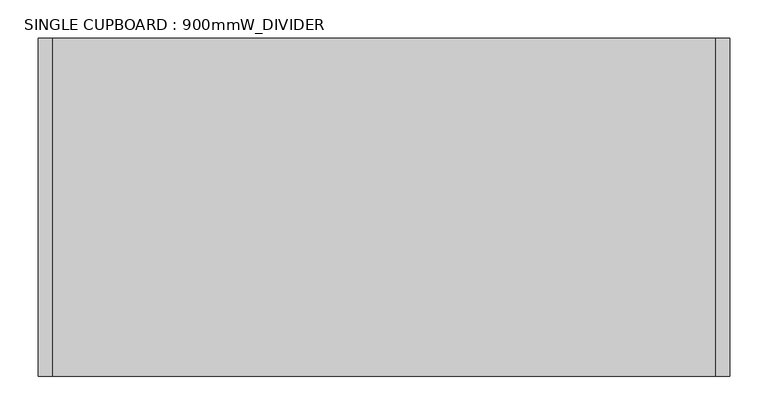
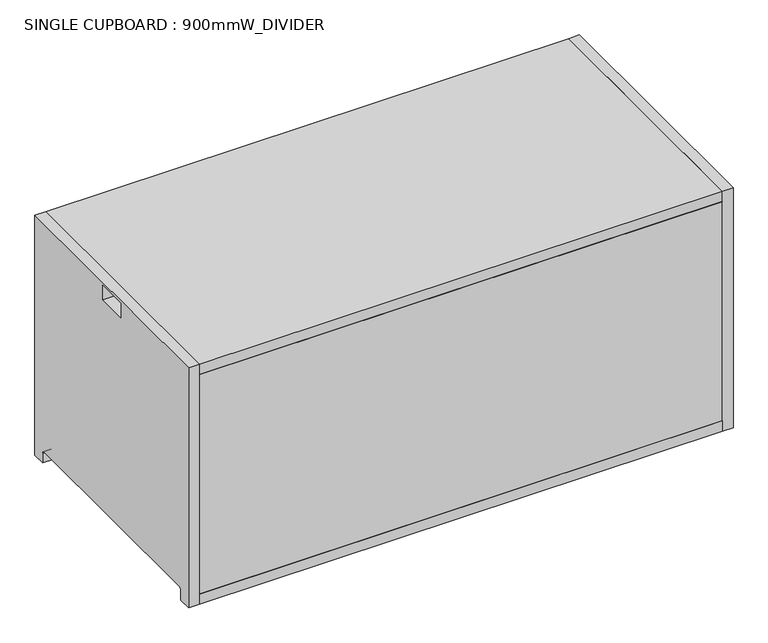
"""IFC4 building model written with IfcOpenShell, lengths in millimetres: furniture geometry, SINGLE CUPBOARD : 900mmW_DIVIDER."""

from ifc_helpers import new_model, si_unit, point, frame, frame_2d, origin, place, context, project, spatial, polyline, circle_curve, trimmed, segment, composite_curve, outline, extrude, source, transform, mapped, element, save
from ifc_brep_helpers import plane_surface, revolved_surface, advanced_brep


def single_cupboard_900mmw_divider_bc8416fa(model_context):
    return source(origin(), model_context, "Body", "SolidModel", [
        extrude(outline(composite_curve([segment(polyline([(220.0, 419.5), (220.0, 0.0), (198.0, 0.0), (198.0, 17.0)]), True, "CONTINUOUS"), segment(trimmed(circle_curve(frame_2d((194.0, 17.0)), 4.0), [point((198.0, 17.0))], [point((194.0, 21.0))], True, "CARTESIAN"), True, "CONTINUOUS"), segment(polyline([(194.0, 21.0), (-194.0, 21.0)]), True, "CONTINUOUS"), segment(trimmed(circle_curve(frame_2d((-194.0, 17.0)), 4.0), [point((-194.0, 21.0))], [point((-198.0, 17.0))], True, "CARTESIAN"), True, "CONTINUOUS"), segment(polyline([(-198.0, 17.0), (-198.0, 0.0), (-220.0, 0.0), (-220.0, 419.5), (220.0, 419.5)]), True, "CONTINUOUS")], self_intersect=False), holes=[polyline([(26.0, 414.5), (-26.0, 414.5), (-26.0, 389.5), (26.0, 389.5), (26.0, 414.5)])]), frame((-450.0, 0.0, 0.0), z_axis=(1.0, 0.0, 0.0), x_axis=(0.0, 1.0, 0.0)), (0.0, 0.0, 1.0), 18.0),
        advanced_brep(
        [(432.0, -220.0, 18.0), (432.0, 220.0, 18.0), (-432.0, 220.0, 18.0), (-432.0, 197.8729833, 18.0), (-426.1019215, 197.8729833, 18.0), (-426.1019215, -197.8729833, 18.0), (-432.0, -197.8729833, 18.0), (-432.0, -220.0, 18.0), (432.0, -220.0, 0.0), (-432.0, -220.0, 0.0), (-432.0, -198.0, 0.0), (-426.1019215, -198.0, 0.0), (-426.1019215, 198.0, 0.0), (-432.0, 198.0, 0.0), (-432.0, 220.0, 0.0), (432.0, 220.0, 0.0), (-432.0, -198.0, 17.0), (-432.0, 198.0, 17.0), (-426.1019215, -198.0, 17.0), (-426.1019215, 198.0, 17.0)],
        [
            (0, 1),
            (1, 2),
            (2, 3),
            (3, 4),
            (4, 5),
            (5, 6),
            (6, 7),
            (7, 0),
            (8, 9),
            (9, 10),
            (10, 11),
            (11, 12),
            (12, 13),
            (13, 14),
            (14, 15),
            (15, 8),
            (7, 9),
            (8, 0),
            (6, 16, circle_curve(frame((-432.0, -194.0, 17.0), z_axis=(1.0, 0.0, 0.0), x_axis=(0.0, -1.0, 0.0)), 4.0)),
            (16, 10),
            (13, 17),
            (17, 3, circle_curve(frame((-432.0, 194.0, 17.0), z_axis=(1.0, 0.0, 0.0), x_axis=(0.0, -1.0, 0.0)), 4.0)),
            (2, 14),
            (1, 15),
            (18, 5, circle_curve(frame((-426.1019215, -194.0, 17.0), z_axis=(-1.0, 0.0, 0.0), x_axis=(0.0, -1.0, 0.0)), 4.0)),
            (4, 19, circle_curve(frame((-426.1019215, 194.0, 17.0), z_axis=(-1.0, 0.0, 0.0), x_axis=(0.0, -1.0, 0.0)), 4.0)),
            (19, 12),
            (11, 18),
            (17, 19),
            (16, 18),
        ],
        [
            plane_surface(frame((-432.0, -220.0, 18.0), z_axis=(0.0, 0.0, 1.0), x_axis=(-1.0, 0.0, 0.0))),
            plane_surface(frame((-432.0, -220.0, 0.0), z_axis=(0.0, 0.0, -1.0), x_axis=(1.0, 0.0, 0.0))),
            plane_surface(frame((432.0, -220.0, 18.0), z_axis=(0.0, -1.0, 0.0), x_axis=(0.0, 0.0, -1.0))),
            plane_surface(frame((-432.0, -220.0, 18.0), z_axis=(-1.0, 0.0, 0.0), x_axis=(0.0, 0.0, -1.0))),
            plane_surface(frame((-432.0, 220.0, 18.0), z_axis=(0.0, 1.0, 0.0), x_axis=(0.0, 0.0, -1.0))),
            plane_surface(frame((432.0, 220.0, 18.0), z_axis=(1.0, 0.0, 0.0), x_axis=(0.0, 0.0, -1.0))),
            plane_surface(frame((-426.1019215, 190.0, 17.0), z_axis=(-1.0, 0.0, 0.0), x_axis=(0.0, 0.0, 1.0))),
            revolved_surface(polyline([(-426.1019215, 190.0, 17.0), (-432.0, 190.0, 17.0)]), (-456.0458228, 194.0, 17.0), (1.0, 0.0, 0.0)),
            plane_surface(frame((-426.1019215, 198.0, 17.0), z_axis=(0.0, -1.0, 0.0), x_axis=(-1.0, 0.0, 0.0))),
            plane_surface(frame((-426.1019215, -198.0, 0.0), z_axis=(0.0, 1.0, 0.0), x_axis=(-1.0, 0.0, 0.0))),
            revolved_surface(polyline([(-426.1019215, -198.0, 17.0), (-432.0, -198.0, 17.0)]), (-456.0458228, -194.0, 17.0), (1.0, 0.0, 0.0)),
        ],
        [
            (0, [[1, 2, 3, 4, 5, 6, 7, 8]]),
            (1, [[9, 10, 11, 12, 13, 14, 15, 16]]),
            (2, [[17, -9, 18, -8]]),
            (3, [[-7, 19, 20, -10, -17]]),
            (3, [[-14, 21, 22, -3, 23]]),
            (4, [[24, -15, -23, -2]]),
            (5, [[-18, -16, -24, -1]]),
            (6, [[25, -5, 26, 27, -12, 28]]),
            (7, [[-4, -22, 29, -26]]),
            (8, [[-29, -21, -13, -27]]),
            (9, [[-11, -20, 30, -28]]),
            (10, [[-30, -19, -6, -25]]),
        ],
    ),
        extrude(outline(composite_curve([segment(polyline([(220.0, 419.5), (220.0, 0.0), (198.0, 0.0), (198.0, 17.0)]), True, "CONTINUOUS"), segment(trimmed(circle_curve(frame_2d((194.0, 17.0)), 4.0), [point((198.0, 17.0))], [point((194.0, 21.0))], True, "CARTESIAN"), True, "CONTINUOUS"), segment(polyline([(194.0, 21.0), (-194.0, 21.0)]), True, "CONTINUOUS"), segment(trimmed(circle_curve(frame_2d((-194.0, 17.0)), 4.0), [point((-194.0, 21.0))], [point((-198.0, 17.0))], True, "CARTESIAN"), True, "CONTINUOUS"), segment(polyline([(-198.0, 17.0), (-198.0, 0.0), (-220.0, 0.0), (-220.0, 419.5), (220.0, 419.5)]), True, "CONTINUOUS")], self_intersect=False), holes=[polyline([(26.0, 414.5), (-26.0, 414.5), (-26.0, 389.5), (26.0, 389.5), (26.0, 414.5)])]), frame((432.0, 0.0, 0.0), z_axis=(1.0, 0.0, 0.0), x_axis=(0.0, 1.0, 0.0)), (0.0, 0.0, 1.0), 18.0),
        extrude(outline(polyline([(432.0, -220.0), (-432.0, -220.0), (-432.0, -202.0), (432.0, -202.0), (432.0, -220.0)])), frame((0.0, 0.0, 18.0), z_axis=(0.0, 0.0, 1.0), x_axis=(1.0, 0.0, 0.0)), (0.0, 0.0, 1.0), 383.5),
        extrude(outline(polyline([(432.0, -220.0), (-432.0, -220.0), (-432.0, 220.0), (432.0, 220.0), (432.0, -220.0)])), frame((0.0, 0.0, 401.5), z_axis=(0.0, 0.0, 1.0), x_axis=(1.0, 0.0, 0.0)), (0.0, 0.0, 1.0), 18.0),
        extrude(outline(polyline([(9.0, -202.0), (-9.0, -202.0), (-9.0, 220.0), (9.0, 220.0), (9.0, -202.0)])), frame((0.0, 0.0, 18.0), z_axis=(0.0, 0.0, 1.0), x_axis=(1.0, 0.0, 0.0)), (0.0, 0.0, 1.0), 383.5),
    ])


if __name__ == "__main__":
    model = new_model("IFC4")
    model_context = context("Model", 3, world=origin())
    ifc_project = project(units=[si_unit("LENGTHUNIT", "METRE", prefix="MILLI")], contexts=[model_context])
    site = spatial("IfcSite", under=ifc_project)
    building = spatial("IfcBuilding", under=site)
    placement = place(None, origin())
    single_cupboard_900mmw_divider_shape = single_cupboard_900mmw_divider_bc8416fa(model_context)
    element("IfcFurniture", 1, ObjectType="SINGLE CUPBOARD : 900mmW_DIVIDER", at=placement, inside=building, context=model_context, shape_type="MappedRepresentation", body=[
        mapped(single_cupboard_900mmw_divider_shape, transform((0.0, 0.0, 0.0), x_axis=(1.0, 0.0, 0.0), y_axis=(0.0, 1.0, 0.0), z_axis=(0.0, 0.0, 1.0))),
    ])
    save(model, "model.ifc")
